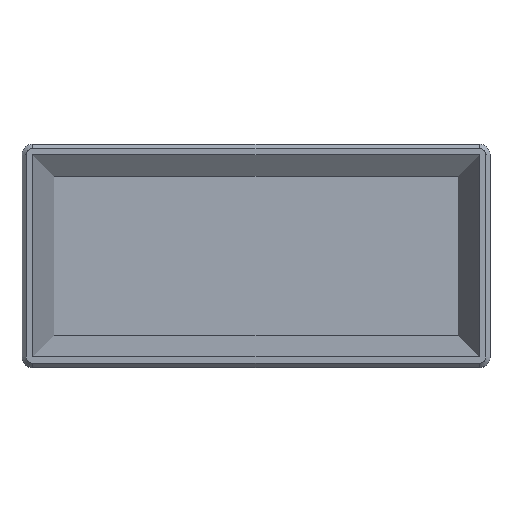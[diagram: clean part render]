
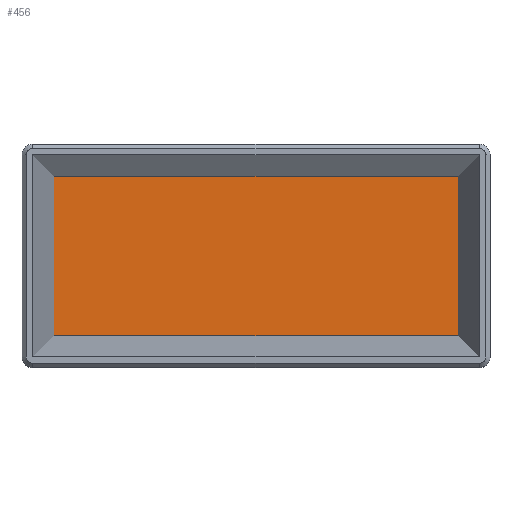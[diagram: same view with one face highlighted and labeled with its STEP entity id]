
A CAD part, top view. The second image highlights one B-rep face of the part: STEP entity #456.
In plain terms, the highlighted planar face has unit normal (0, 0, 1).
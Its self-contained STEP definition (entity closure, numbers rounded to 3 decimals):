
#42=FACE_OUTER_BOUND('',#71,.T.);
#71=EDGE_LOOP('',(#331,#332,#333,#334));
#97=LINE('',#675,#149);
#101=LINE('',#682,#153);
#102=LINE('',#685,#154);
#106=LINE('',#691,#158);
#149=VECTOR('',#539,10.);
#153=VECTOR('',#545,10.);
#154=VECTOR('',#548,10.);
#158=VECTOR('',#554,10.);
#201=VERTEX_POINT('',#672);
#202=VERTEX_POINT('',#674);
#204=VERTEX_POINT('',#680);
#205=VERTEX_POINT('',#684);
#241=EDGE_CURVE('',#201,#202,#97,.T.);
#245=EDGE_CURVE('',#204,#201,#101,.T.);
#246=EDGE_CURVE('',#205,#204,#102,.T.);
#250=EDGE_CURVE('',#202,#205,#106,.T.);
#331=ORIENTED_EDGE('',*,*,#250,.F.);
#332=ORIENTED_EDGE('',*,*,#241,.F.);
#333=ORIENTED_EDGE('',*,*,#245,.F.);
#334=ORIENTED_EDGE('',*,*,#246,.F.);
#436=PLANE('',#502);
#456=ADVANCED_FACE('',(#42),#436,.F.);
#502=AXIS2_PLACEMENT_3D('',#709,#569,#570);
#539=DIRECTION('',(0.,-1.,0.));
#545=DIRECTION('',(1.,0.,0.));
#548=DIRECTION('',(0.,1.,0.));
#554=DIRECTION('',(-1.,0.,0.));
#569=DIRECTION('center_axis',(0.,0.,-1.));
#570=DIRECTION('ref_axis',(-1.,0.,0.));
#672=CARTESIAN_POINT('',(205.,-25.,-5.));
#674=CARTESIAN_POINT('',(205.,-100.,-5.));
#675=CARTESIAN_POINT('',(205.,-25.,-5.));
#680=CARTESIAN_POINT('',(15.,-25.,-5.));
#682=CARTESIAN_POINT('',(15.,-25.,-5.));
#684=CARTESIAN_POINT('',(15.,-100.,-5.));
#685=CARTESIAN_POINT('',(15.,-100.,-5.));
#691=CARTESIAN_POINT('',(205.,-100.,-5.));
#709=CARTESIAN_POINT('Origin',(110.,-62.5,-5.));
